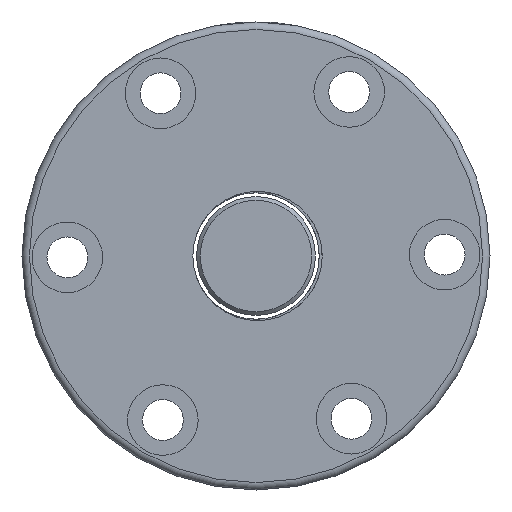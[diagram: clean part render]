
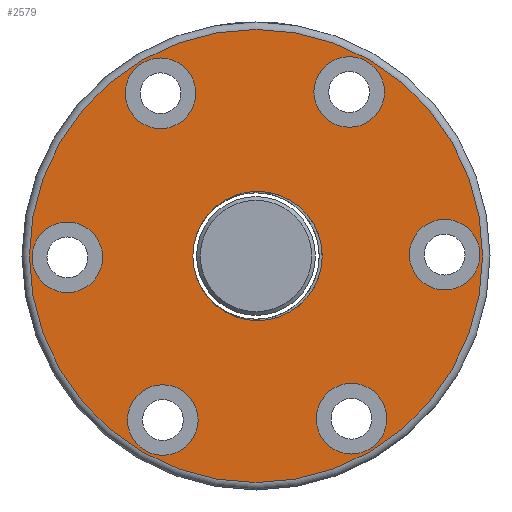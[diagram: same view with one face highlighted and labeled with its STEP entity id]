
A CAD part, left-side view. The second image highlights one B-rep face of the part: STEP entity #2579.
In plain terms, the highlighted planar face has unit normal (-1, 0, 0).
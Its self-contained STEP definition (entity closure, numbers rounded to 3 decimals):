
#19 = ORIENTED_EDGE ( 'NONE', *, *, #344, .T. ) ;
#33 = EDGE_CURVE ( 'NONE', #765, #765, #509, .T. ) ;
#49 = DIRECTION ( 'NONE',  ( 0., 1., 0. ) ) ;
#91 = CIRCLE ( 'NONE', #383, 4.75 ) ;
#100 = FACE_BOUND ( 'NONE', #1299, .T. ) ;
#111 = ORIENTED_EDGE ( 'NONE', *, *, #33, .T. ) ;
#241 = DIRECTION ( 'NONE',  ( 1., 0., 0. ) ) ;
#314 = FACE_BOUND ( 'NONE', #1581, .T. ) ;
#315 = CARTESIAN_POINT ( 'NONE',  ( -58., 0.206, -30.5 ) ) ;
#322 = EDGE_CURVE ( 'NONE', #2352, #2352, #1821, .T. ) ;
#344 = EDGE_CURVE ( 'NONE', #1027, #1027, #2870, .T. ) ;
#345 = CARTESIAN_POINT ( 'NONE',  ( -58., 25.603, -0.178 ) ) ;
#349 = FACE_BOUND ( 'NONE', #521, .T. ) ;
#383 = AXIS2_PLACEMENT_3D ( 'NONE', #1150, #2432, #2031 ) ;
#416 = VERTEX_POINT ( 'NONE', #834 ) ;
#441 = DIRECTION ( 'NONE',  ( 1., 0., 0. ) ) ;
#462 = CARTESIAN_POINT ( 'NONE',  ( -58., -12.338, 22.084 ) ) ;
#508 = EDGE_LOOP ( 'NONE', ( #1905 ) ) ;
#509 = CIRCLE ( 'NONE', #2868, 4.75 ) ;
#521 = EDGE_LOOP ( 'NONE', ( #562 ) ) ;
#523 = DIRECTION ( 'NONE',  ( 1., 0., 0. ) ) ;
#538 = EDGE_CURVE ( 'NONE', #1250, #1250, #91, .T. ) ;
#562 = ORIENTED_EDGE ( 'NONE', *, *, #2790, .T. ) ;
#568 = AXIS2_PLACEMENT_3D ( 'NONE', #2481, #241, #1096 ) ;
#679 = DIRECTION ( 'NONE',  ( 0., 0., -1. ) ) ;
#687 = CIRCLE ( 'NONE', #1069, 4.75 ) ;
#718 = DIRECTION ( 'NONE',  ( 1., 0., 0. ) ) ;
#765 = VERTEX_POINT ( 'NONE', #1674 ) ;
#792 = AXIS2_PLACEMENT_3D ( 'NONE', #2550, #1464, #2333 ) ;
#834 = CARTESIAN_POINT ( 'NONE',  ( -58., -12.338, 26.834 ) ) ;
#947 = DIRECTION ( 'NONE',  ( 0., 0., 1. ) ) ;
#960 = CARTESIAN_POINT ( 'NONE',  ( -58., 13.059, 21.906 ) ) ;
#995 = FACE_BOUND ( 'NONE', #998, .T. ) ;
#998 = EDGE_LOOP ( 'NONE', ( #1685 ) ) ;
#1024 = DIRECTION ( 'NONE',  ( 1., 0., 0. ) ) ;
#1027 = VERTEX_POINT ( 'NONE', #1919 ) ;
#1053 = CARTESIAN_POINT ( 'NONE',  ( -58., 17.173, 24.281 ) ) ;
#1069 = AXIS2_PLACEMENT_3D ( 'NONE', #462, #718, #947 ) ;
#1096 = DIRECTION ( 'NONE',  ( 0., -0.866, 0.5 ) ) ;
#1112 = CARTESIAN_POINT ( 'NONE',  ( -58., 0.206, 0. ) ) ;
#1114 = CARTESIAN_POINT ( 'NONE',  ( -58., 29.717, -2.553 ) ) ;
#1150 = CARTESIAN_POINT ( 'NONE',  ( -58., -12.647, -21.906 ) ) ;
#1188 = ORIENTED_EDGE ( 'NONE', *, *, #538, .T. ) ;
#1203 = FACE_OUTER_BOUND ( 'NONE', #508, .T. ) ;
#1211 = CIRCLE ( 'NONE', #792, 8.706 ) ;
#1249 = PLANE ( 'NONE',  #1576 ) ;
#1250 = VERTEX_POINT ( 'NONE', #1416 ) ;
#1299 = EDGE_LOOP ( 'NONE', ( #1188 ) ) ;
#1314 = VERTEX_POINT ( 'NONE', #1114 ) ;
#1416 = CARTESIAN_POINT ( 'NONE',  ( -58., -16.761, -24.281 ) ) ;
#1464 = DIRECTION ( 'NONE',  ( 1., 0., 0. ) ) ;
#1576 = AXIS2_PLACEMENT_3D ( 'NONE', #2097, #2814, #49 ) ;
#1581 = EDGE_LOOP ( 'NONE', ( #19 ) ) ;
#1597 = EDGE_LOOP ( 'NONE', ( #1690 ) ) ;
#1656 = FACE_BOUND ( 'NONE', #1876, .T. ) ;
#1674 = CARTESIAN_POINT ( 'NONE',  ( -58., 12.75, -26.834 ) ) ;
#1683 = DIRECTION ( 'NONE',  ( 1., 0., 0. ) ) ;
#1685 = ORIENTED_EDGE ( 'NONE', *, *, #2809, .T. ) ;
#1690 = ORIENTED_EDGE ( 'NONE', *, *, #2307, .T. ) ;
#1729 = CARTESIAN_POINT ( 'NONE',  ( -58., 0., -8.706 ) ) ;
#1806 = AXIS2_PLACEMENT_3D ( 'NONE', #345, #1683, #2329 ) ;
#1821 = CIRCLE ( 'NONE', #2350, 30.5 ) ;
#1876 = EDGE_LOOP ( 'NONE', ( #2172 ) ) ;
#1905 = ORIENTED_EDGE ( 'NONE', *, *, #322, .F. ) ;
#1919 = CARTESIAN_POINT ( 'NONE',  ( -58., -29.305, 2.553 ) ) ;
#2031 = DIRECTION ( 'NONE',  ( 0., -0.866, -0.5 ) ) ;
#2079 = FACE_BOUND ( 'NONE', #1597, .T. ) ;
#2097 = CARTESIAN_POINT ( 'NONE',  ( -58., 11.206, 0. ) ) ;
#2102 = AXIS2_PLACEMENT_3D ( 'NONE', #960, #523, #2314 ) ;
#2143 = CARTESIAN_POINT ( 'NONE',  ( -58., 12.75, -22.084 ) ) ;
#2172 = ORIENTED_EDGE ( 'NONE', *, *, #2633, .T. ) ;
#2210 = VERTEX_POINT ( 'NONE', #1729 ) ;
#2272 = EDGE_LOOP ( 'NONE', ( #111 ) ) ;
#2307 = EDGE_CURVE ( 'NONE', #1314, #1314, #2673, .T. ) ;
#2314 = DIRECTION ( 'NONE',  ( 0., 0.866, 0.5 ) ) ;
#2329 = DIRECTION ( 'NONE',  ( 0., 0.866, -0.5 ) ) ;
#2333 = DIRECTION ( 'NONE',  ( 0., 0., -1. ) ) ;
#2350 = AXIS2_PLACEMENT_3D ( 'NONE', #1112, #441, #2665 ) ;
#2352 = VERTEX_POINT ( 'NONE', #315 ) ;
#2366 = FACE_BOUND ( 'NONE', #2272, .T. ) ;
#2407 = VERTEX_POINT ( 'NONE', #1053 ) ;
#2432 = DIRECTION ( 'NONE',  ( 1., 0., 0. ) ) ;
#2481 = CARTESIAN_POINT ( 'NONE',  ( -58., -25.192, 0.178 ) ) ;
#2483 = CIRCLE ( 'NONE', #2102, 4.75 ) ;
#2550 = CARTESIAN_POINT ( 'NONE',  ( -58., 0., 0. ) ) ;
#2579 = ADVANCED_FACE ( 'NONE', ( #1203, #2366, #2079, #1656, #349, #314, #100, #995 ), #1249, .F. ) ;
#2633 = EDGE_CURVE ( 'NONE', #2407, #2407, #2483, .T. ) ;
#2665 = DIRECTION ( 'NONE',  ( 0., 0., -1. ) ) ;
#2673 = CIRCLE ( 'NONE', #1806, 4.75 ) ;
#2790 = EDGE_CURVE ( 'NONE', #416, #416, #687, .T. ) ;
#2809 = EDGE_CURVE ( 'NONE', #2210, #2210, #1211, .T. ) ;
#2814 = DIRECTION ( 'NONE',  ( 1., 0., 0. ) ) ;
#2868 = AXIS2_PLACEMENT_3D ( 'NONE', #2143, #1024, #679 ) ;
#2870 = CIRCLE ( 'NONE', #568, 4.75 ) ;
